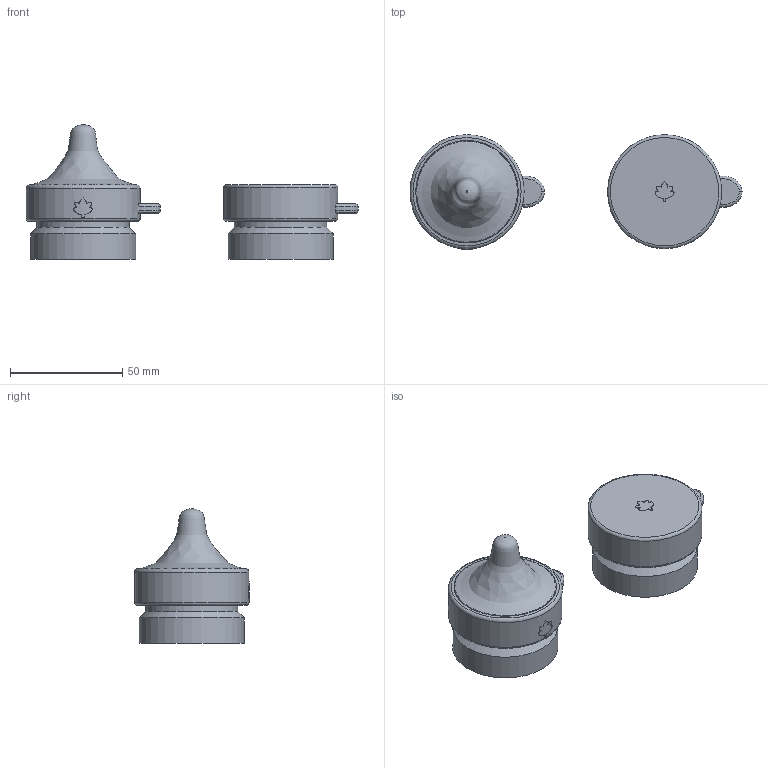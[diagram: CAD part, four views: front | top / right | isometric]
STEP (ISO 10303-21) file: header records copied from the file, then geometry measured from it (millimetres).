
FILE_DESCRIPTION(('Open CASCADE Model'),'2;1');
FILE_NAME('Open CASCADE Shape Model','2026-11-09T11:50:28',('Author'),( 'Open CASCADE'),'Open CASCADE STEP processor 7.8','Open CASCADE 7.8' ,'Unknown');
FILE_SCHEMA(('AUTOMOTIVE_DESIGN { 1 0 10303 214 1 1 1 1 }'));
Length unit declared in the file: millimetre
Products named in the file (4): FN-001 | FigNest R01 | nominal interfaces only; FN-101-Teat-Slow-Study; Reference gauge -44; FN-102-Storage-Cap
Assembly tree (4 placements, depth 2):
  FN-001 | FigNest R01 | nominal interfaces only
    FN-101-Teat-Slow-Study
    Reference gauge -44  x2
    FN-102-Storage-Cap
Bounding box: 147.91 x 51.06 x 59.99 mm (x, y, z)
Volume: 61542.6 mm3; surface area: 35790.1 mm2
Topology: 4 solids, 4 shells, 85 faces, 194 edges, 122 vertices
Faces by surface type: extrusion 28, plane 16, cylinder 14, torus 11, bspline 8, cone 6, revolution 2
Full cylindrical faces by diameter (mm): 0.55 x1, 30.7 x2, 41 x2, 41.1 x2, 43.1 x2, 46.8 x2, 50.8 x2
Entity records: 10426 total; most frequent: CARTESIAN_POINT 7124, DIRECTION 461, ORIENTED_EDGE 356, PCURVE 356, DEFINITIONAL_REPRESENTATION 356, VECTOR 257, B_SPLINE_CURVE_WITH_KNOTS 239, LINE 229
